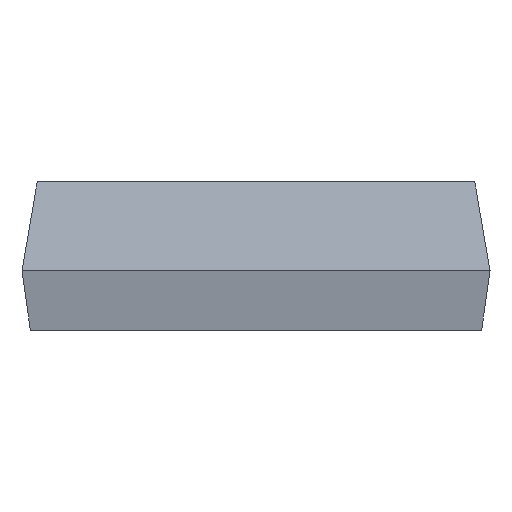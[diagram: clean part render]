
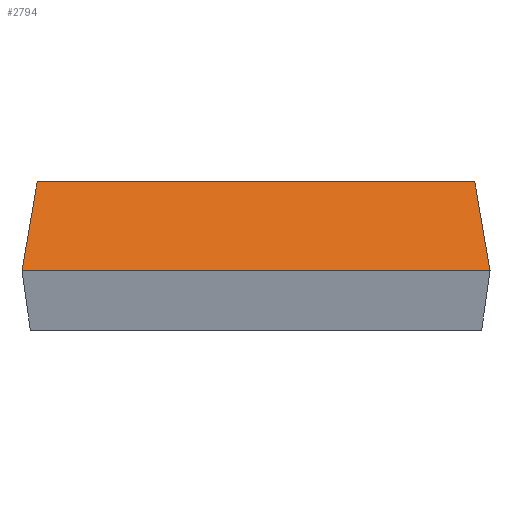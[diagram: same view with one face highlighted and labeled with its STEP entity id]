
A CAD part, left-side view. The second image highlights one B-rep face of the part: STEP entity #2794.
In plain terms, the highlighted planar face has unit normal (-0.958, 0, 0.286).
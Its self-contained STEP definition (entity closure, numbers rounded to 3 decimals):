
#1825=CARTESIAN_POINT('',(0.,0.,0.));
#1826=VERTEX_POINT('',#1825);
#1862=CARTESIAN_POINT('',(-0.,15.8,0.));
#1863=VERTEX_POINT('',#1862);
#1888=CARTESIAN_POINT('',(-0.,15.8,0.));
#1889=DIRECTION('',(0.,-1.,0.));
#1890=VECTOR('',#1889,15.8);
#1891=LINE('',#1888,#1890);
#1892=EDGE_CURVE('',#1863,#1826,#1891,.T.);
#2526=CARTESIAN_POINT('',(0.894,15.287,3.));
#2527=VERTEX_POINT('',#2526);
#2534=CARTESIAN_POINT('',(0.894,0.513,3.));
#2535=VERTEX_POINT('',#2534);
#2536=CARTESIAN_POINT('',(0.894,15.287,3.));
#2537=DIRECTION('',(0.,-1.,0.));
#2538=VECTOR('',#2537,14.774);
#2539=LINE('',#2536,#2538);
#2540=EDGE_CURVE('',#2527,#2535,#2539,.T.);
#2664=CARTESIAN_POINT('',(-0.,15.8,0.));
#2665=DIRECTION('',(0.282,-0.162,0.946));
#2666=VECTOR('',#2665,3.172);
#2667=LINE('',#2664,#2666);
#2668=EDGE_CURVE('',#1863,#2527,#2667,.T.);
#2686=CARTESIAN_POINT('',(0.894,0.513,3.));
#2687=DIRECTION('',(-0.282,-0.162,-0.946));
#2688=VECTOR('',#2687,3.172);
#2689=LINE('',#2686,#2688);
#2690=EDGE_CURVE('',#2535,#1826,#2689,.T.);
#2783=CARTESIAN_POINT('',(0.894,0.,3.));
#2784=DIRECTION('',(-0.958,-0.,0.286));
#2785=DIRECTION('',(-0.,1.,0.));
#2786=AXIS2_PLACEMENT_3D('',#2783,#2784,#2785);
#2787=PLANE('',#2786);
#2788=ORIENTED_EDGE('',*,*,#2668,.F.);
#2789=ORIENTED_EDGE('',*,*,#1892,.T.);
#2790=ORIENTED_EDGE('',*,*,#2690,.F.);
#2791=ORIENTED_EDGE('',*,*,#2540,.F.);
#2792=EDGE_LOOP('',(#2788,#2789,#2790,#2791));
#2793=FACE_BOUND('',#2792,.T.);
#2794=ADVANCED_FACE('',(#2793),#2787,.T.);
